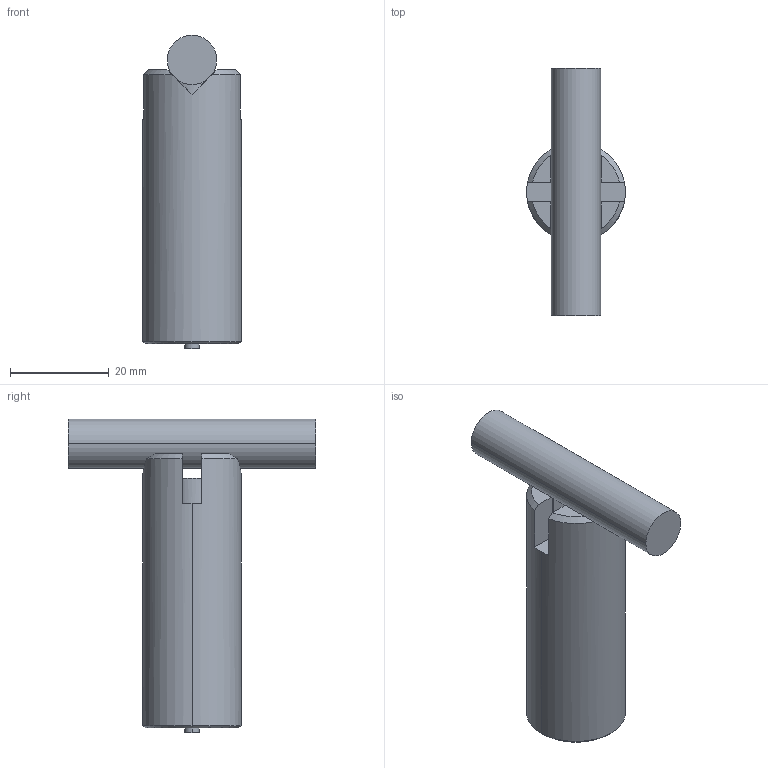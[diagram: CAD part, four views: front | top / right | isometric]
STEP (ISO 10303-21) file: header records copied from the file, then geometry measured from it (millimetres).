
FILE_DESCRIPTION(('Creo Elements/Direct Modeling STEP Export'),'2;1');
FILE_NAME('501用.stp','2018-09-14T19:48:39',(''),(''),'Creo Elements/Direct Modeling STEP processor for AP214 (Solid Model)','Creo Elements/Direct Modeling 18.1C 24-Feb-2013 (C) Parametric Technology GmbH','');
FILE_SCHEMA(('AUTOMOTIVE_DESIGN { 1 0 10303 214 1 1 1 1 }'));
Length unit declared in the file: millimetre
Products named in the file (6): ゲージスタンド; 2; 1; Φ2; Φ10; LSM-501S用
Assembly tree (5 placements, depth 3):
  LSM-501S用
    Φ10
    Φ2
      1
      2
    ゲージスタンド
Bounding box: 20 x 50 x 63.5 mm (x, y, z)
Volume: 20515.6 mm3; surface area: 7326.7 mm2
Topology: 4 solids, 4 shells, 59 faces, 148 edges, 98 vertices
Faces by surface type: plane 39, cylinder 12, cone 8
Entity records: 1790 total; most frequent: CARTESIAN_POINT 362, ORIENTED_EDGE 296, DIRECTION 235, EDGE_CURVE 148, VERTEX_POINT 98, AXIS2_PLACEMENT_3D 81, VECTOR 73, LINE 73
